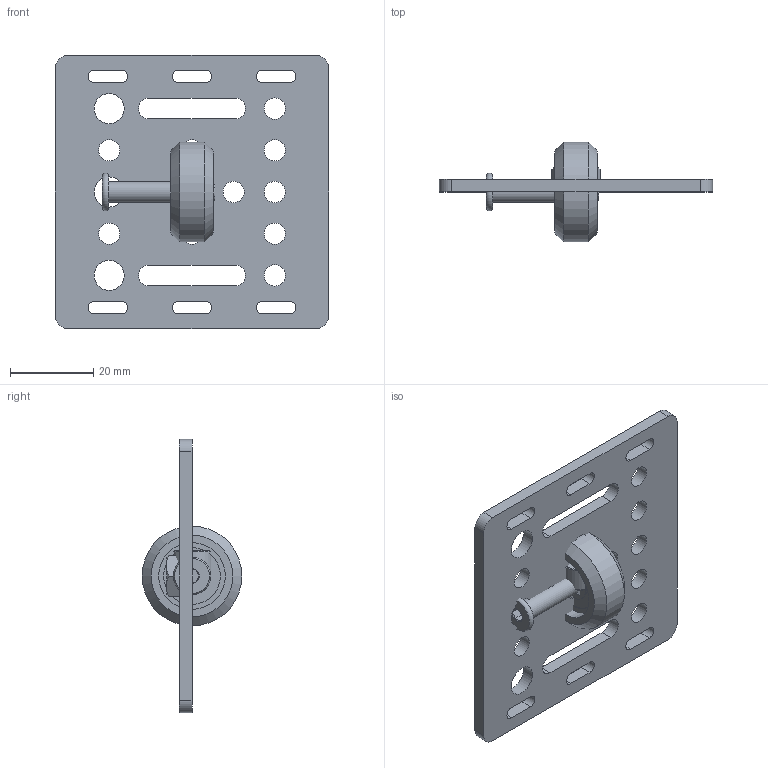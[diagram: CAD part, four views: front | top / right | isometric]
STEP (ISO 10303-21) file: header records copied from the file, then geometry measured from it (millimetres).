
FILE_DESCRIPTION(/* description */ ('STEP AP242 Edition 2','CAx-IF Rec.Pracs.---Representation and Presentation of Product Manufacturing Information (PMI)---4.0---2014-10-13','CAx-IF Rec.Pracs.---3D Tessellated Geometry---0.4---2014-09-14','2;1','CAx-IF Rec.Pracs.---User Defined Attributes---1.5---2016-08-15'),/* implementation_level */ '2;1');
FILE_NAME(/* name */ 'Don''t Touch(Gantry)',/* time_stamp */ '2025-11-29T19:54:07Z',/* author */ (''),/* organization */ (''),/* preprocessor_version */ 'ST-DEVELOPER v20',/* originating_system */ 'ONSHAPE BY PTC INC, 1.207',/* authorisation */ ' ');
FILE_SCHEMA (('AP242_MANAGED_MODEL_BASED_3D_ENGINEERING_MIM_LF { 1 0 10303 442 3 1 4 }'));
Length unit declared in the file: metre
Products named in the file (8): Precision Shim 8 x 5 x 1 v1; Aluminum Spacer 6mm v1; Eccentric Spacer 6mm v1; Xtreme Solid V Wheel v1; Nylon Insert Lock Nut M5 v1; V-Slot Gantry Plate 20mm v1; Ball Bearing 5 x 16 x 5 v1; Low Profile Screw M5 v1
Bounding box: 65.5 x 23.9 x 65.5 mm (x, y, z)
Volume: 15203.8 mm3; surface area: 13584.9 mm2
Topology: 8 solids, 8 shells, 154 faces, 363 edges, 236 vertices
Faces by surface type: plane 65, cylinder 55, cone 32, torus 2
Full cylindrical faces by diameter (mm): 4.25 x1, 5 x5, 5.1 x13, 5.3 x1, 7.11 x1, 7.2 x3, 8 x1, 8.6 x2, 10 x1, 13.6 x2, 14 x1, 16 x3, 23.9 x1
Entity records: 4492 total; most frequent: CARTESIAN_POINT 818, DIRECTION 730, ORIENTED_EDGE 630, EDGE_CURVE 315, AXIS2_PLACEMENT_3D 307, EDGE_LOOP 268, FACE_BOUND 268, VERTEX_POINT 233
